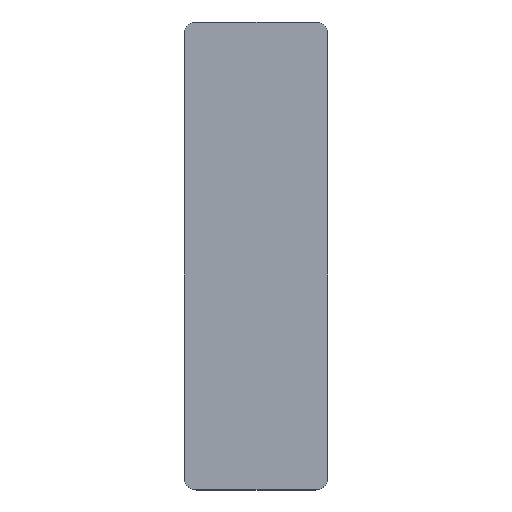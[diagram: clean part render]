
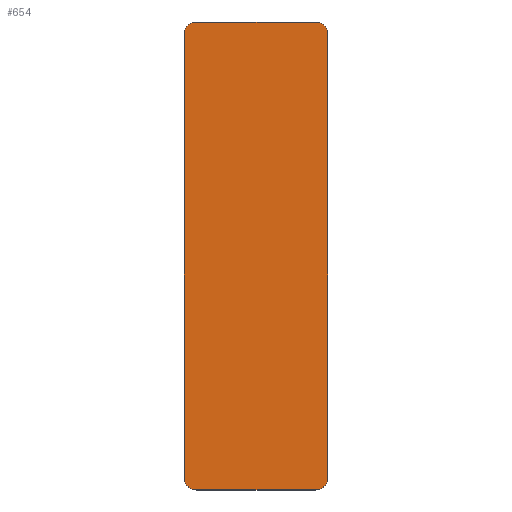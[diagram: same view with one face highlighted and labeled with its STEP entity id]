
A CAD part, top view. The second image highlights one B-rep face of the part: STEP entity #654.
In plain terms, the highlighted planar face has unit normal (0, 0, 1).
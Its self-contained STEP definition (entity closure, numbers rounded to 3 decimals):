
#24 = VERTEX_POINT('',#25);
#25 = CARTESIAN_POINT('',(20.75,32.7,-7.9));
#32 = PLANE('',#33);
#33 = AXIS2_PLACEMENT_3D('',#34,#35,#36);
#34 = CARTESIAN_POINT('',(20.75,32.7,-9.9));
#35 = DIRECTION('',(-1.,0.,0.));
#36 = DIRECTION('',(0.,1.,0.));
#44 = CYLINDRICAL_SURFACE('',#45,0.7);
#45 = AXIS2_PLACEMENT_3D('',#46,#47,#48);
#46 = CARTESIAN_POINT('',(21.45,32.7,-9.9));
#47 = DIRECTION('',(-0.,-0.,-1.));
#48 = DIRECTION('',(1.,0.,0.));
#56 = EDGE_CURVE('',#24,#57,#59,.T.);
#57 = VERTEX_POINT('',#58);
#58 = CARTESIAN_POINT('',(20.75,57.3,-7.9));
#59 = SURFACE_CURVE('',#60,(#64,#71),.PCURVE_S1.);
#60 = LINE('',#61,#62);
#61 = CARTESIAN_POINT('',(20.75,45.,-7.9));
#62 = VECTOR('',#63,1.);
#63 = DIRECTION('',(0.,1.,0.));
#64 = PCURVE('',#32,#65);
#65 = DEFINITIONAL_REPRESENTATION('',(#66),#70);
#66 = LINE('',#67,#68);
#67 = CARTESIAN_POINT('',(12.3,-2.));
#68 = VECTOR('',#69,1.);
#69 = DIRECTION('',(1.,0.));
#70 = ( GEOMETRIC_REPRESENTATION_CONTEXT(2) 
PARAMETRIC_REPRESENTATION_CONTEXT() REPRESENTATION_CONTEXT('2D SPACE',''
  ) );
#71 = PCURVE('',#72,#77);
#72 = PLANE('',#73);
#73 = AXIS2_PLACEMENT_3D('',#74,#75,#76);
#74 = CARTESIAN_POINT('',(24.75,45.,-7.9));
#75 = DIRECTION('',(0.,0.,1.));
#76 = DIRECTION('',(1.,0.,-0.));
#77 = DEFINITIONAL_REPRESENTATION('',(#78),#82);
#78 = LINE('',#79,#80);
#79 = CARTESIAN_POINT('',(-4.,0.));
#80 = VECTOR('',#81,1.);
#81 = DIRECTION('',(0.,1.));
#82 = ( GEOMETRIC_REPRESENTATION_CONTEXT(2) 
PARAMETRIC_REPRESENTATION_CONTEXT() REPRESENTATION_CONTEXT('2D SPACE',''
  ) );
#100 = CYLINDRICAL_SURFACE('',#101,0.7);
#101 = AXIS2_PLACEMENT_3D('',#102,#103,#104);
#102 = CARTESIAN_POINT('',(21.45,57.3,-9.9));
#103 = DIRECTION('',(-0.,-0.,-1.));
#104 = DIRECTION('',(1.,0.,0.));
#166 = VERTEX_POINT('',#167);
#167 = CARTESIAN_POINT('',(21.45,32.,-7.9));
#181 = PLANE('',#182);
#182 = AXIS2_PLACEMENT_3D('',#183,#184,#185);
#183 = CARTESIAN_POINT('',(21.45,32.,-9.9));
#184 = DIRECTION('',(0.,1.,0.));
#185 = DIRECTION('',(1.,0.,0.));
#193 = EDGE_CURVE('',#24,#166,#194,.T.);
#194 = SURFACE_CURVE('',#195,(#200,#207),.PCURVE_S1.);
#195 = CIRCLE('',#196,0.7);
#196 = AXIS2_PLACEMENT_3D('',#197,#198,#199);
#197 = CARTESIAN_POINT('',(21.45,32.7,-7.9));
#198 = DIRECTION('',(0.,0.,1.));
#199 = DIRECTION('',(1.,0.,-0.));
#200 = PCURVE('',#44,#201);
#201 = DEFINITIONAL_REPRESENTATION('',(#202),#206);
#202 = LINE('',#203,#204);
#203 = CARTESIAN_POINT('',(6.283,-2.));
#204 = VECTOR('',#205,1.);
#205 = DIRECTION('',(-1.,0.));
#206 = ( GEOMETRIC_REPRESENTATION_CONTEXT(2) 
PARAMETRIC_REPRESENTATION_CONTEXT() REPRESENTATION_CONTEXT('2D SPACE',''
  ) );
#207 = PCURVE('',#72,#208);
#208 = DEFINITIONAL_REPRESENTATION('',(#209),#213);
#209 = CIRCLE('',#210,0.7);
#210 = AXIS2_PLACEMENT_2D('',#211,#212);
#211 = CARTESIAN_POINT('',(-3.3,-12.3));
#212 = DIRECTION('',(1.,0.));
#213 = ( GEOMETRIC_REPRESENTATION_CONTEXT(2) 
PARAMETRIC_REPRESENTATION_CONTEXT() REPRESENTATION_CONTEXT('2D SPACE',''
  ) );
#220 = EDGE_CURVE('',#166,#221,#223,.T.);
#221 = VERTEX_POINT('',#222);
#222 = CARTESIAN_POINT('',(28.05,32.,-7.9));
#223 = SURFACE_CURVE('',#224,(#228,#235),.PCURVE_S1.);
#224 = LINE('',#225,#226);
#225 = CARTESIAN_POINT('',(24.75,32.,-7.9));
#226 = VECTOR('',#227,1.);
#227 = DIRECTION('',(1.,0.,0.));
#228 = PCURVE('',#181,#229);
#229 = DEFINITIONAL_REPRESENTATION('',(#230),#234);
#230 = LINE('',#231,#232);
#231 = CARTESIAN_POINT('',(3.3,-2.));
#232 = VECTOR('',#233,1.);
#233 = DIRECTION('',(1.,0.));
#234 = ( GEOMETRIC_REPRESENTATION_CONTEXT(2) 
PARAMETRIC_REPRESENTATION_CONTEXT() REPRESENTATION_CONTEXT('2D SPACE',''
  ) );
#235 = PCURVE('',#72,#236);
#236 = DEFINITIONAL_REPRESENTATION('',(#237),#241);
#237 = LINE('',#238,#239);
#238 = CARTESIAN_POINT('',(0.,-13.));
#239 = VECTOR('',#240,1.);
#240 = DIRECTION('',(1.,0.));
#241 = ( GEOMETRIC_REPRESENTATION_CONTEXT(2) 
PARAMETRIC_REPRESENTATION_CONTEXT() REPRESENTATION_CONTEXT('2D SPACE',''
  ) );
#259 = CYLINDRICAL_SURFACE('',#260,0.7);
#260 = AXIS2_PLACEMENT_3D('',#261,#262,#263);
#261 = CARTESIAN_POINT('',(28.05,32.7,-9.9));
#262 = DIRECTION('',(-0.,-0.,-1.));
#263 = DIRECTION('',(1.,0.,0.));
#320 = VERTEX_POINT('',#321);
#321 = CARTESIAN_POINT('',(28.75,32.7,-7.9));
#335 = PLANE('',#336);
#336 = AXIS2_PLACEMENT_3D('',#337,#338,#339);
#337 = CARTESIAN_POINT('',(28.75,32.7,-9.9));
#338 = DIRECTION('',(-1.,0.,0.));
#339 = DIRECTION('',(0.,1.,0.));
#347 = EDGE_CURVE('',#221,#320,#348,.T.);
#348 = SURFACE_CURVE('',#349,(#354,#361),.PCURVE_S1.);
#349 = CIRCLE('',#350,0.7);
#350 = AXIS2_PLACEMENT_3D('',#351,#352,#353);
#351 = CARTESIAN_POINT('',(28.05,32.7,-7.9));
#352 = DIRECTION('',(0.,0.,1.));
#353 = DIRECTION('',(1.,0.,-0.));
#354 = PCURVE('',#259,#355);
#355 = DEFINITIONAL_REPRESENTATION('',(#356),#360);
#356 = LINE('',#357,#358);
#357 = CARTESIAN_POINT('',(6.283,-2.));
#358 = VECTOR('',#359,1.);
#359 = DIRECTION('',(-1.,0.));
#360 = ( GEOMETRIC_REPRESENTATION_CONTEXT(2) 
PARAMETRIC_REPRESENTATION_CONTEXT() REPRESENTATION_CONTEXT('2D SPACE',''
  ) );
#361 = PCURVE('',#72,#362);
#362 = DEFINITIONAL_REPRESENTATION('',(#363),#367);
#363 = CIRCLE('',#364,0.7);
#364 = AXIS2_PLACEMENT_2D('',#365,#366);
#365 = CARTESIAN_POINT('',(3.3,-12.3));
#366 = DIRECTION('',(1.,0.));
#367 = ( GEOMETRIC_REPRESENTATION_CONTEXT(2) 
PARAMETRIC_REPRESENTATION_CONTEXT() REPRESENTATION_CONTEXT('2D SPACE',''
  ) );
#374 = EDGE_CURVE('',#320,#375,#377,.T.);
#375 = VERTEX_POINT('',#376);
#376 = CARTESIAN_POINT('',(28.75,57.3,-7.9));
#377 = SURFACE_CURVE('',#378,(#382,#389),.PCURVE_S1.);
#378 = LINE('',#379,#380);
#379 = CARTESIAN_POINT('',(28.75,45.,-7.9));
#380 = VECTOR('',#381,1.);
#381 = DIRECTION('',(0.,1.,0.));
#382 = PCURVE('',#335,#383);
#383 = DEFINITIONAL_REPRESENTATION('',(#384),#388);
#384 = LINE('',#385,#386);
#385 = CARTESIAN_POINT('',(12.3,-2.));
#386 = VECTOR('',#387,1.);
#387 = DIRECTION('',(1.,0.));
#388 = ( GEOMETRIC_REPRESENTATION_CONTEXT(2) 
PARAMETRIC_REPRESENTATION_CONTEXT() REPRESENTATION_CONTEXT('2D SPACE',''
  ) );
#389 = PCURVE('',#72,#390);
#390 = DEFINITIONAL_REPRESENTATION('',(#391),#395);
#391 = LINE('',#392,#393);
#392 = CARTESIAN_POINT('',(4.,0.));
#393 = VECTOR('',#394,1.);
#394 = DIRECTION('',(0.,1.));
#395 = ( GEOMETRIC_REPRESENTATION_CONTEXT(2) 
PARAMETRIC_REPRESENTATION_CONTEXT() REPRESENTATION_CONTEXT('2D SPACE',''
  ) );
#413 = CYLINDRICAL_SURFACE('',#414,0.7);
#414 = AXIS2_PLACEMENT_3D('',#415,#416,#417);
#415 = CARTESIAN_POINT('',(28.05,57.3,-9.9));
#416 = DIRECTION('',(-0.,-0.,-1.));
#417 = DIRECTION('',(1.,0.,0.));
#474 = VERTEX_POINT('',#475);
#475 = CARTESIAN_POINT('',(28.05,58.,-7.9));
#489 = PLANE('',#490);
#490 = AXIS2_PLACEMENT_3D('',#491,#492,#493);
#491 = CARTESIAN_POINT('',(21.45,58.,-9.9));
#492 = DIRECTION('',(0.,1.,0.));
#493 = DIRECTION('',(1.,0.,0.));
#501 = EDGE_CURVE('',#375,#474,#502,.T.);
#502 = SURFACE_CURVE('',#503,(#508,#515),.PCURVE_S1.);
#503 = CIRCLE('',#504,0.7);
#504 = AXIS2_PLACEMENT_3D('',#505,#506,#507);
#505 = CARTESIAN_POINT('',(28.05,57.3,-7.9));
#506 = DIRECTION('',(0.,0.,1.));
#507 = DIRECTION('',(1.,0.,-0.));
#508 = PCURVE('',#413,#509);
#509 = DEFINITIONAL_REPRESENTATION('',(#510),#514);
#510 = LINE('',#511,#512);
#511 = CARTESIAN_POINT('',(6.283,-2.));
#512 = VECTOR('',#513,1.);
#513 = DIRECTION('',(-1.,0.));
#514 = ( GEOMETRIC_REPRESENTATION_CONTEXT(2) 
PARAMETRIC_REPRESENTATION_CONTEXT() REPRESENTATION_CONTEXT('2D SPACE',''
  ) );
#515 = PCURVE('',#72,#516);
#516 = DEFINITIONAL_REPRESENTATION('',(#517),#521);
#517 = CIRCLE('',#518,0.7);
#518 = AXIS2_PLACEMENT_2D('',#519,#520);
#519 = CARTESIAN_POINT('',(3.3,12.3));
#520 = DIRECTION('',(1.,0.));
#521 = ( GEOMETRIC_REPRESENTATION_CONTEXT(2) 
PARAMETRIC_REPRESENTATION_CONTEXT() REPRESENTATION_CONTEXT('2D SPACE',''
  ) );
#530 = VERTEX_POINT('',#531);
#531 = CARTESIAN_POINT('',(21.45,58.,-7.9));
#552 = EDGE_CURVE('',#530,#474,#553,.T.);
#553 = SURFACE_CURVE('',#554,(#558,#565),.PCURVE_S1.);
#554 = LINE('',#555,#556);
#555 = CARTESIAN_POINT('',(24.75,58.,-7.9));
#556 = VECTOR('',#557,1.);
#557 = DIRECTION('',(1.,0.,0.));
#558 = PCURVE('',#489,#559);
#559 = DEFINITIONAL_REPRESENTATION('',(#560),#564);
#560 = LINE('',#561,#562);
#561 = CARTESIAN_POINT('',(3.3,-2.));
#562 = VECTOR('',#563,1.);
#563 = DIRECTION('',(1.,0.));
#564 = ( GEOMETRIC_REPRESENTATION_CONTEXT(2) 
PARAMETRIC_REPRESENTATION_CONTEXT() REPRESENTATION_CONTEXT('2D SPACE',''
  ) );
#565 = PCURVE('',#72,#566);
#566 = DEFINITIONAL_REPRESENTATION('',(#567),#571);
#567 = LINE('',#568,#569);
#568 = CARTESIAN_POINT('',(0.,13.));
#569 = VECTOR('',#570,1.);
#570 = DIRECTION('',(1.,0.));
#571 = ( GEOMETRIC_REPRESENTATION_CONTEXT(2) 
PARAMETRIC_REPRESENTATION_CONTEXT() REPRESENTATION_CONTEXT('2D SPACE',''
  ) );
#621 = EDGE_CURVE('',#530,#57,#622,.T.);
#622 = SURFACE_CURVE('',#623,(#628,#635),.PCURVE_S1.);
#623 = CIRCLE('',#624,0.7);
#624 = AXIS2_PLACEMENT_3D('',#625,#626,#627);
#625 = CARTESIAN_POINT('',(21.45,57.3,-7.9));
#626 = DIRECTION('',(0.,0.,1.));
#627 = DIRECTION('',(1.,0.,-0.));
#628 = PCURVE('',#100,#629);
#629 = DEFINITIONAL_REPRESENTATION('',(#630),#634);
#630 = LINE('',#631,#632);
#631 = CARTESIAN_POINT('',(6.283,-2.));
#632 = VECTOR('',#633,1.);
#633 = DIRECTION('',(-1.,0.));
#634 = ( GEOMETRIC_REPRESENTATION_CONTEXT(2) 
PARAMETRIC_REPRESENTATION_CONTEXT() REPRESENTATION_CONTEXT('2D SPACE',''
  ) );
#635 = PCURVE('',#72,#636);
#636 = DEFINITIONAL_REPRESENTATION('',(#637),#641);
#637 = CIRCLE('',#638,0.7);
#638 = AXIS2_PLACEMENT_2D('',#639,#640);
#639 = CARTESIAN_POINT('',(-3.3,12.3));
#640 = DIRECTION('',(1.,0.));
#641 = ( GEOMETRIC_REPRESENTATION_CONTEXT(2) 
PARAMETRIC_REPRESENTATION_CONTEXT() REPRESENTATION_CONTEXT('2D SPACE',''
  ) );
#654 = ADVANCED_FACE('',(#655),#72,.T.);
#655 = FACE_BOUND('',#656,.T.);
#656 = EDGE_LOOP('',(#657,#658,#659,#660,#661,#662,#663,#664));
#657 = ORIENTED_EDGE('',*,*,#56,.F.);
#658 = ORIENTED_EDGE('',*,*,#193,.T.);
#659 = ORIENTED_EDGE('',*,*,#220,.T.);
#660 = ORIENTED_EDGE('',*,*,#347,.T.);
#661 = ORIENTED_EDGE('',*,*,#374,.T.);
#662 = ORIENTED_EDGE('',*,*,#501,.T.);
#663 = ORIENTED_EDGE('',*,*,#552,.F.);
#664 = ORIENTED_EDGE('',*,*,#621,.T.);
